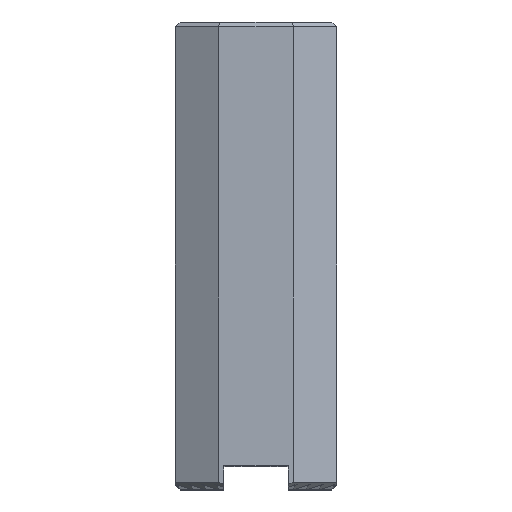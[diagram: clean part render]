
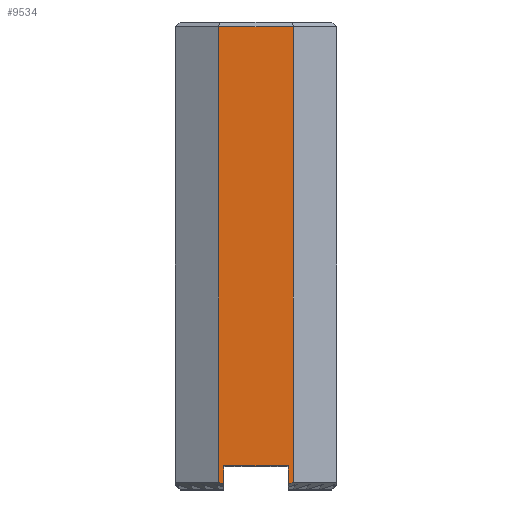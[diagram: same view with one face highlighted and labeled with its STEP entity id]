
A CAD part, top view. The second image highlights one B-rep face of the part: STEP entity #9534.
In plain terms, the highlighted planar face has unit normal (0, 0, 1).
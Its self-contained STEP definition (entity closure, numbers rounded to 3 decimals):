
#566=FACE_OUTER_BOUND('',#1100,.T.);
#1100=EDGE_LOOP('',(#8477,#8478,#8479,#8480,#8481,#8482,#8483,#8484));
#1103=LINE('',#12498,#2413);
#1296=LINE('',#12883,#2606);
#1488=LINE('',#13271,#2798);
#2370=LINE('',#15036,#3680);
#2373=LINE('',#15044,#3683);
#2379=LINE('',#15056,#3689);
#2402=LINE('',#15101,#3712);
#2410=LINE('',#15137,#3720);
#2413=VECTOR('',#10104,10.);
#2606=VECTOR('',#10299,10.);
#2798=VECTOR('',#10497,10.);
#3680=VECTOR('',#12371,10.);
#3683=VECTOR('',#12382,10.);
#3689=VECTOR('',#12392,10.);
#3712=VECTOR('',#12441,10.);
#3720=VECTOR('',#12487,10.);
#3723=VERTEX_POINT('',#12495);
#3724=VERTEX_POINT('',#12497);
#3915=VERTEX_POINT('',#12881);
#4108=VERTEX_POINT('',#13269);
#4495=VERTEX_POINT('',#15034);
#4496=VERTEX_POINT('',#15043);
#4500=VERTEX_POINT('',#15055);
#4508=VERTEX_POINT('',#15095);
#4521=EDGE_CURVE('',#3724,#3723,#1103,.T.);
#4714=EDGE_CURVE('',#3723,#3915,#1296,.T.);
#4908=EDGE_CURVE('',#3915,#4108,#1488,.T.);
#5791=EDGE_CURVE('',#4495,#4108,#2370,.T.);
#5794=EDGE_CURVE('',#3724,#4496,#2373,.T.);
#5800=EDGE_CURVE('',#4496,#4500,#2379,.T.);
#5823=EDGE_CURVE('',#4500,#4508,#2402,.T.);
#5840=EDGE_CURVE('',#4495,#4508,#2410,.T.);
#8477=ORIENTED_EDGE('',*,*,#4908,.T.);
#8478=ORIENTED_EDGE('',*,*,#5791,.F.);
#8479=ORIENTED_EDGE('',*,*,#5840,.T.);
#8480=ORIENTED_EDGE('',*,*,#5823,.F.);
#8481=ORIENTED_EDGE('',*,*,#5800,.F.);
#8482=ORIENTED_EDGE('',*,*,#5794,.F.);
#8483=ORIENTED_EDGE('',*,*,#4521,.T.);
#8484=ORIENTED_EDGE('',*,*,#4714,.T.);
#9006=PLANE('',#10097);
#9534=ADVANCED_FACE('',(#566),#9006,.T.);
#10097=AXIS2_PLACEMENT_3D('',#15138,#12488,#12489);
#10104=DIRECTION('',(0.,1.,0.));
#10299=DIRECTION('',(1.,0.,0.));
#10497=DIRECTION('',(0.,-1.,0.));
#12371=DIRECTION('',(-0.903,-0.429,0.));
#12382=DIRECTION('',(-0.903,0.429,0.));
#12392=DIRECTION('',(0.,1.,0.));
#12441=DIRECTION('',(1.,0.,0.));
#12487=DIRECTION('',(0.,1.,0.));
#12488=DIRECTION('center_axis',(0.,0.,1.));
#12489=DIRECTION('ref_axis',(1.,0.,0.));
#12495=CARTESIAN_POINT('',(-6.95,5.,47.5));
#12497=CARTESIAN_POINT('',(-6.95,1.001,47.5));
#12498=CARTESIAN_POINT('',(-6.95,0.,47.5));
#12881=CARTESIAN_POINT('',(6.95,5.,47.5));
#12883=CARTESIAN_POINT('',(-7.475,5.,47.5));
#13269=CARTESIAN_POINT('',(6.95,1.001,47.5));
#13271=CARTESIAN_POINT('',(6.95,2.5,47.5));
#15034=CARTESIAN_POINT('',(8.,1.5,47.5));
#15036=CARTESIAN_POINT('',(3.683,-0.553,47.5));
#15043=CARTESIAN_POINT('',(-8.,1.5,47.5));
#15044=CARTESIAN_POINT('',(-12.093,3.446,47.5));
#15055=CARTESIAN_POINT('',(-8.,99.,47.5));
#15056=CARTESIAN_POINT('',(-8.,0.,47.5));
#15095=CARTESIAN_POINT('',(8.,99.,47.5));
#15101=CARTESIAN_POINT('',(-4.,99.,47.5));
#15137=CARTESIAN_POINT('',(8.,0.,47.5));
#15138=CARTESIAN_POINT('Origin',(-8.,0.,47.5));
